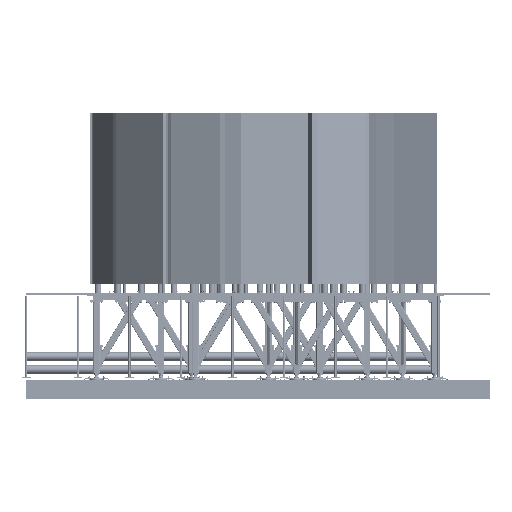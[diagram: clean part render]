
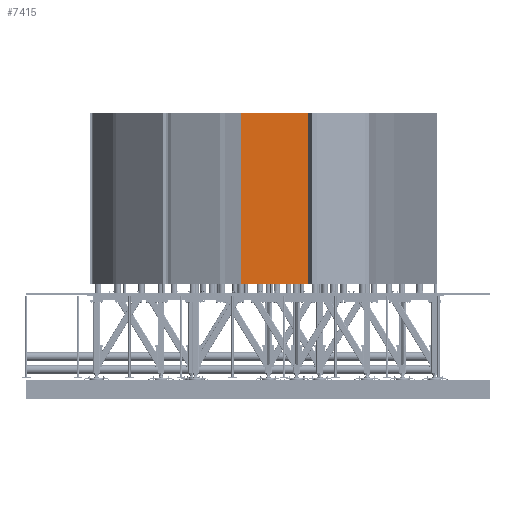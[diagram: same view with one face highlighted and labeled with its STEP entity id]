
A CAD part, left-side view. The second image highlights one B-rep face of the part: STEP entity #7415.
In plain terms, the highlighted planar face has unit normal (-0.999, -0.035, 0).
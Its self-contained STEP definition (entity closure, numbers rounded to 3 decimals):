
#7415 = ADVANCED_FACE ( 'NONE', ( #36991 ), #214415, .F. ) ;
#14197 = CARTESIAN_POINT ( 'NONE',  ( -3355.782, 445.746, 5507.319 ) ) ;
#17299 = EDGE_CURVE ( 'NONE', #147367, #184968, #44302, .T. ) ;
#20506 = LINE ( 'NONE', #148700, #145671 ) ;
#21925 = CARTESIAN_POINT ( 'NONE',  ( -3355.782, 445.746, 5507.319 ) ) ;
#31366 = VERTEX_POINT ( 'NONE', #243323 ) ;
#36991 = FACE_OUTER_BOUND ( 'NONE', #236926, .T. ) ;
#44302 = LINE ( 'NONE', #14197, #111978 ) ;
#50290 = ORIENTED_EDGE ( 'NONE', *, *, #242330, .F. ) ;
#50509 = EDGE_CURVE ( 'NONE', #147367, #31366, #81139, .T. ) ;
#69470 = CARTESIAN_POINT ( 'NONE',  ( -3355.782, 445.746, 3507.319 ) ) ;
#81139 = LINE ( 'NONE', #172693, #216784 ) ;
#86042 = VECTOR ( 'NONE', #150649, 1000. ) ;
#92459 = ORIENTED_EDGE ( 'NONE', *, *, #50509, .F. ) ;
#111978 = VECTOR ( 'NONE', #255332, 1000. ) ;
#125605 = ORIENTED_EDGE ( 'NONE', *, *, #151727, .T. ) ;
#137100 = AXIS2_PLACEMENT_3D ( 'NONE', #262609, #260744, #151999 ) ;
#141803 = ORIENTED_EDGE ( 'NONE', *, *, #17299, .T. ) ;
#145671 = VECTOR ( 'NONE', #241247, 1000. ) ;
#147367 = VERTEX_POINT ( 'NONE', #21925 ) ;
#148700 = CARTESIAN_POINT ( 'NONE',  ( -3328.561, -333.779, 3507.319 ) ) ;
#149311 = CARTESIAN_POINT ( 'NONE',  ( -3328.561, -333.779, 3507.319 ) ) ;
#150649 = DIRECTION ( 'NONE',  ( 0., 0., -1. ) ) ;
#151727 = EDGE_CURVE ( 'NONE', #184968, #219419, #20506, .T. ) ;
#151999 = DIRECTION ( 'NONE',  ( -0.035, 0.999, 0. ) ) ;
#172399 = CARTESIAN_POINT ( 'NONE',  ( -3328.561, -333.779, 5507.319 ) ) ;
#172693 = CARTESIAN_POINT ( 'NONE',  ( -3328.561, -333.779, 5507.319 ) ) ;
#184968 = VERTEX_POINT ( 'NONE', #69470 ) ;
#214415 = PLANE ( 'NONE',  #137100 ) ;
#216784 = VECTOR ( 'NONE', #261541, 1000. ) ;
#219419 = VERTEX_POINT ( 'NONE', #149311 ) ;
#236926 = EDGE_LOOP ( 'NONE', ( #125605, #50290, #92459, #141803 ) ) ;
#241247 = DIRECTION ( 'NONE',  ( 0.035, -0.999, 0. ) ) ;
#242330 = EDGE_CURVE ( 'NONE', #31366, #219419, #279166, .T. ) ;
#243323 = CARTESIAN_POINT ( 'NONE',  ( -3328.561, -333.779, 5507.319 ) ) ;
#255332 = DIRECTION ( 'NONE',  ( 0., 0., -1. ) ) ;
#260744 = DIRECTION ( 'NONE',  ( 0.999, 0.035, 0. ) ) ;
#261541 = DIRECTION ( 'NONE',  ( 0.035, -0.999, 0. ) ) ;
#262609 = CARTESIAN_POINT ( 'NONE',  ( -3328.561, -333.779, 5507.319 ) ) ;
#279166 = LINE ( 'NONE', #172399, #86042 ) ;
